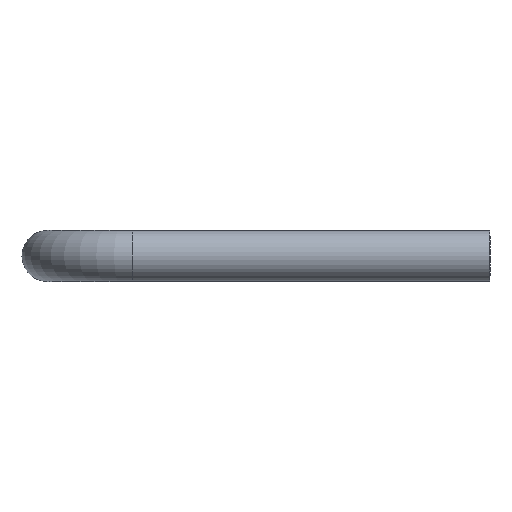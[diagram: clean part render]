
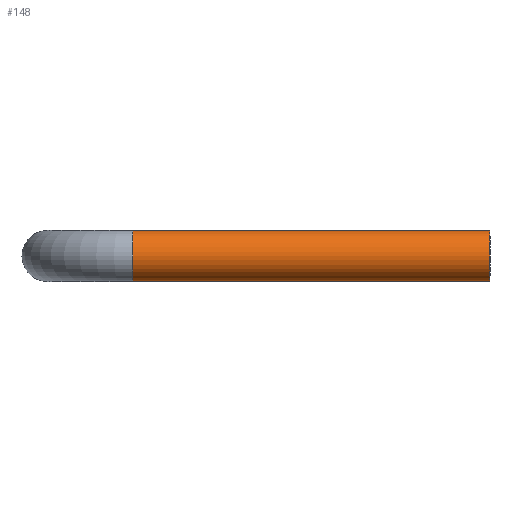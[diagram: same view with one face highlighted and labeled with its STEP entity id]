
A CAD part, left-side view. The second image highlights one B-rep face of the part: STEP entity #148.
In plain terms, the highlighted cylindrical face has radius 6 mm (diameter 12 mm), a full revolution.
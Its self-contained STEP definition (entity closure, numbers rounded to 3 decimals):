
#28=CYLINDRICAL_SURFACE('',#176,6.);
#35=ORIENTED_EDGE('',*,*,#59,.F.);
#36=ORIENTED_EDGE('',*,*,#57,.T.);
#57=EDGE_CURVE('',#69,#69,#83,.T.);
#59=EDGE_CURVE('',#71,#71,#85,.T.);
#69=VERTEX_POINT('',#253);
#71=VERTEX_POINT('',#258);
#83=CIRCLE('',#174,6.);
#85=CIRCLE('',#177,6.);
#97=EDGE_LOOP('',(#35));
#98=EDGE_LOOP('',(#36));
#121=FACE_BOUND('',#97,.T.);
#122=FACE_BOUND('',#98,.T.);
#148=ADVANCED_FACE('',(#121,#122),#28,.T.);
#174=AXIS2_PLACEMENT_3D('',#252,#202,#203);
#176=AXIS2_PLACEMENT_3D('',#256,#206,#207);
#177=AXIS2_PLACEMENT_3D('',#257,#208,#209);
#202=DIRECTION('',(0.,1.,0.));
#203=DIRECTION('',(0.,0.,1.));
#206=DIRECTION('',(0.,1.,0.));
#207=DIRECTION('',(0.,0.,1.));
#208=DIRECTION('',(0.,1.,0.));
#209=DIRECTION('',(0.,0.,1.));
#252=CARTESIAN_POINT('',(-62.5,0.,0.));
#253=CARTESIAN_POINT('',(-62.5,0.,6.));
#256=CARTESIAN_POINT('',(-62.5,84.,0.));
#257=CARTESIAN_POINT('',(-62.5,84.,0.));
#258=CARTESIAN_POINT('',(-62.5,84.,6.));
